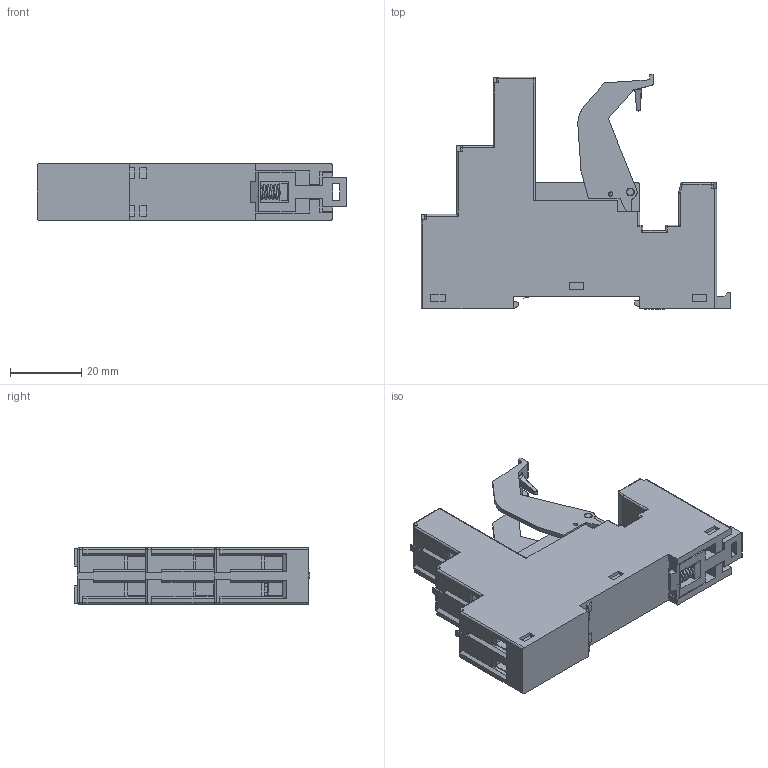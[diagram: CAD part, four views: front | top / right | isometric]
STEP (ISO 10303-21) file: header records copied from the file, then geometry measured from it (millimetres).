
FILE_DESCRIPTION(('STEP AP214'),'2;1');
FILE_NAME('9702+09701_catalogo.stp','2010-09-09T14:08:16',(''),(''),'2007.1.106','THINKDESIGN','');
FILE_SCHEMA(('AUTOMOTIVE_DESIGN'));
Products named in the file (1): None
Bounding box: 86.85 x 65.99 x 15.8 mm (x, y, z)
Surface area: 18867.7 mm2 (no closed solid volume)
Topology: 0 solids, 0 shells, 775 faces, 4339 edges, 4321 vertices
Faces by surface type: plane 632, cylinder 117, bspline 26
Full cylindrical faces by diameter (mm): 1.2 x2, 2 x3, 2.2 x2, 3.2 x1, 4.7 x8, 5 x8
Entity records: 43955 total; most frequent: CARTESIAN_POINT 12105, DIRECTION 5660, COMPOSITE_CURVE_SEGMENT 4321, TRIMMED_CURVE 3893, VECTOR 3624, LINE 3624, AXIS2_PLACEMENT_3D 1018, OUTER_BOUNDARY_CURVE 775
